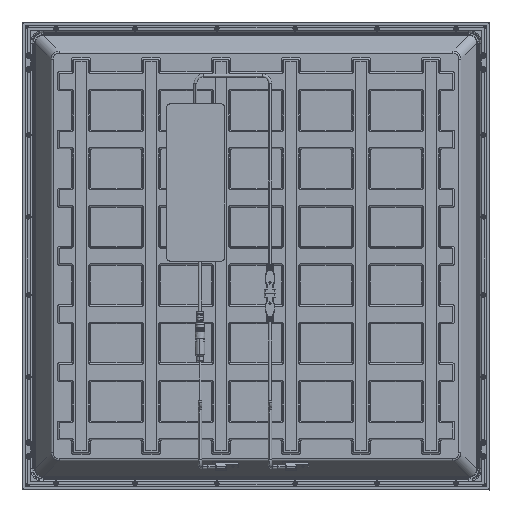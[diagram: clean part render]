
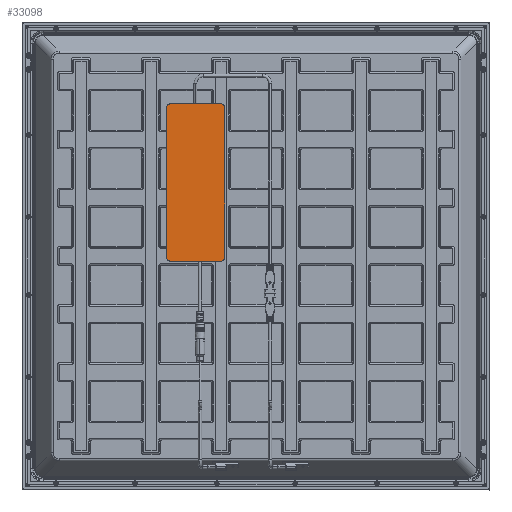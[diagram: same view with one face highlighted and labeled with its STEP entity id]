
A CAD part, top view. The second image highlights one B-rep face of the part: STEP entity #33098.
In plain terms, the highlighted planar face has unit normal (0, 0, 1).
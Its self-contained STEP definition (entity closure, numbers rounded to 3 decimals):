
#19786=LINE('',#202944,#27189);
#19787=LINE('',#202945,#27190);
#19788=LINE('',#202946,#27191);
#19789=LINE('',#202947,#27192);
#27189=VECTOR('',#138601,1.);
#27190=VECTOR('',#138602,1.);
#27191=VECTOR('',#138603,1.);
#27192=VECTOR('',#138604,1.);
#33098=ADVANCED_FACE('NONE',(#41162),#35905,.F.);
#35905=PLANE('',#114322);
#41162=FACE_OUTER_BOUND('',#47421,.T.);
#47421=EDGE_LOOP('',(#75126,#75127,#75128,#75129,#75130,#75131,#75132,#75133));
#75126=ORIENTED_EDGE('',*,*,#100674,.F.);
#75127=ORIENTED_EDGE('',*,*,#100672,.T.);
#75128=ORIENTED_EDGE('',*,*,#100675,.F.);
#75129=ORIENTED_EDGE('',*,*,#100660,.T.);
#75130=ORIENTED_EDGE('',*,*,#100676,.F.);
#75131=ORIENTED_EDGE('',*,*,#100664,.T.);
#75132=ORIENTED_EDGE('',*,*,#100677,.F.);
#75133=ORIENTED_EDGE('',*,*,#100668,.T.);
#86661=VERTEX_POINT('',#202912);
#86662=VERTEX_POINT('',#202914);
#86665=VERTEX_POINT('',#202921);
#86666=VERTEX_POINT('',#202923);
#86669=VERTEX_POINT('',#202930);
#86670=VERTEX_POINT('',#202932);
#86673=VERTEX_POINT('',#202939);
#86674=VERTEX_POINT('',#202941);
#100660=EDGE_CURVE('NONE',#86662,#86661,#105587,.T.);
#100664=EDGE_CURVE('NONE',#86666,#86665,#105589,.T.);
#100668=EDGE_CURVE('NONE',#86670,#86669,#105591,.T.);
#100672=EDGE_CURVE('NONE',#86674,#86673,#105593,.T.);
#100674=EDGE_CURVE('NONE',#86674,#86669,#19786,.T.);
#100675=EDGE_CURVE('NONE',#86662,#86673,#19787,.T.);
#100676=EDGE_CURVE('NONE',#86666,#86661,#19788,.T.);
#100677=EDGE_CURVE('NONE',#86670,#86665,#19789,.T.);
#105587=CIRCLE('',#114311,5.);
#105589=CIRCLE('',#114314,5.);
#105591=CIRCLE('',#114317,5.);
#105593=CIRCLE('',#114320,5.);
#114311=AXIS2_PLACEMENT_3D('',#202913,#138572,#138573);
#114314=AXIS2_PLACEMENT_3D('',#202922,#138580,#138581);
#114317=AXIS2_PLACEMENT_3D('',#202931,#138588,#138589);
#114320=AXIS2_PLACEMENT_3D('',#202940,#138596,#138597);
#114322=AXIS2_PLACEMENT_3D('',#202948,#138605,#138606);
#138572=DIRECTION('',(0.,0.,1.));
#138573=DIRECTION('',(0.,-1.,0.));
#138580=DIRECTION('',(0.,0.,1.));
#138581=DIRECTION('',(0.,-1.,0.));
#138588=DIRECTION('',(0.,0.,1.));
#138589=DIRECTION('',(0.,-1.,0.));
#138596=DIRECTION('',(0.,0.,1.));
#138597=DIRECTION('',(0.,-1.,0.));
#138601=DIRECTION('',(1.,0.,0.));
#138602=DIRECTION('',(0.,1.,0.));
#138603=DIRECTION('',(-1.,0.,0.));
#138604=DIRECTION('',(0.,-1.,0.));
#138605=DIRECTION('',(0.,0.,-1.));
#138606=DIRECTION('',(0.,-1.,0.));
#202912=CARTESIAN_POINT('',(-108.755,-6.599,68.833));
#202913=CARTESIAN_POINT('',(-108.755,-1.599,68.833));
#202914=CARTESIAN_POINT('',(-113.755,-1.599,68.833));
#202921=CARTESIAN_POINT('',(-39.755,-1.599,68.833));
#202922=CARTESIAN_POINT('',(-44.755,-1.599,68.833));
#202923=CARTESIAN_POINT('',(-44.755,-6.599,68.833));
#202930=CARTESIAN_POINT('',(-44.755,193.401,68.833));
#202931=CARTESIAN_POINT('',(-44.755,188.401,68.833));
#202932=CARTESIAN_POINT('',(-39.755,188.401,68.833));
#202939=CARTESIAN_POINT('',(-113.755,188.401,68.833));
#202940=CARTESIAN_POINT('',(-108.755,188.401,68.833));
#202941=CARTESIAN_POINT('',(-108.755,193.401,68.833));
#202944=CARTESIAN_POINT('',(-113.755,193.401,68.833));
#202945=CARTESIAN_POINT('',(-113.755,193.401,68.833));
#202946=CARTESIAN_POINT('',(-113.755,-6.599,68.833));
#202947=CARTESIAN_POINT('',(-39.755,193.401,68.833));
#202948=CARTESIAN_POINT('',(-76.755,93.401,68.833));
